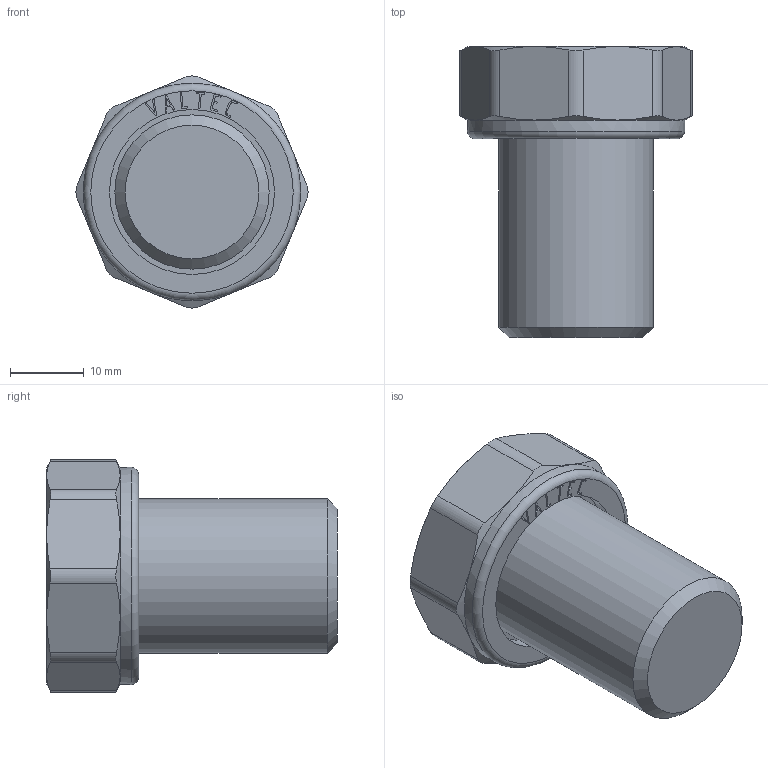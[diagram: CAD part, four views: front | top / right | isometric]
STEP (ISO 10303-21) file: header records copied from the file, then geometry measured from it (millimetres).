
FILE_DESCRIPTION(('STEP AP203'), '1');
FILE_NAME('覆.302638.009.000 捘 - VTr.613.N.0504', '2024-07-10T08:37:03', ('Boss'), (''), 'C3D Converter', 'C3D Toolkit', '');
FILE_SCHEMA(('CONFIG_CONTROL_DESIGN'));
Length unit declared in the file: millimetre
Products named in the file (1): ВР.302638.009.000 СБ
Bounding box: 31.52 x 39.5 x 31.52 mm (x, y, z)
Volume: 15204.4 mm3; surface area: 4978.2 mm2
Topology: 1 solids, 1 shells, 162 faces, 431 edges, 281 vertices
Faces by surface type: extrusion 71, plane 60, cone 18, cylinder 12, torus 1
Full cylindrical faces by diameter (mm): 20.955 x1, 22.4 x1, 24.118 x1, 29.5 x1
Entity records: 6251 total; most frequent: CARTESIAN_POINT 2582, ORIENTED_EDGE 848, DIRECTION 514, EDGE_CURVE 424, VERTEX_POINT 282, VECTOR 280, B_SPLINE_CURVE_WITH_KNOTS 260, LINE 209
